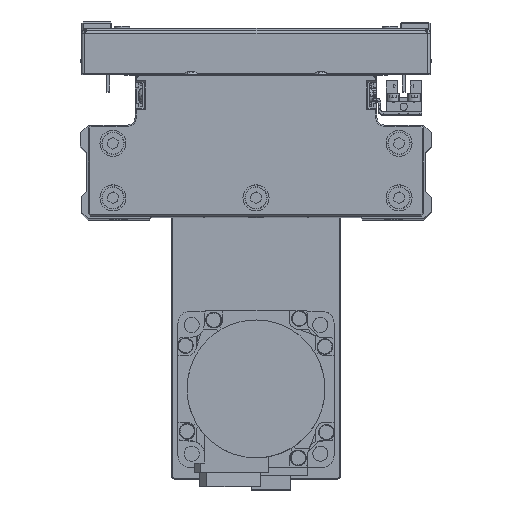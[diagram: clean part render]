
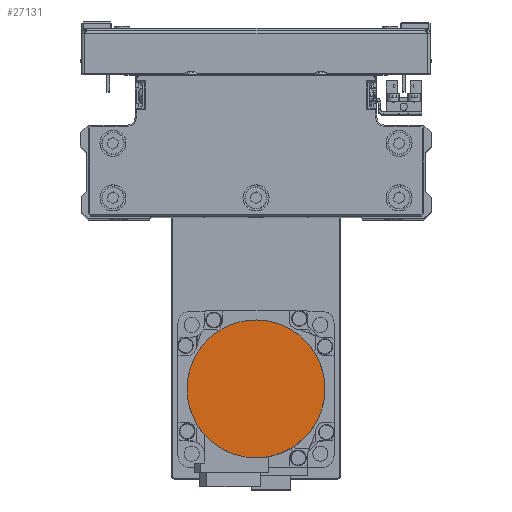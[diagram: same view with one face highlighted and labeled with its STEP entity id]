
A CAD part, top view. The second image highlights one B-rep face of the part: STEP entity #27131.
In plain terms, the highlighted planar face has unit normal (0, 0, 1) as drawn and (0, 0, -1) by its records, which use the part's own axes.
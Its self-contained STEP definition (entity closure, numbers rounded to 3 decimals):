
#1571 = CARTESIAN_POINT ( 'NONE',  ( -21.07, -16.165, -109.7 ) ) ;
#1766 = CARTESIAN_POINT ( 'NONE',  ( 8.539, -25.147, -109.7 ) ) ;
#2009 = CARTESIAN_POINT ( 'NONE',  ( 26.5, 0., -109.7 ) ) ;
#2340 = CARTESIAN_POINT ( 'NONE',  ( 16.165, 21.07, -109.7 ) ) ;
#2548 = CARTESIAN_POINT ( 'NONE',  ( -16.165, 21.07, -109.7 ) ) ;
#2946 = CARTESIAN_POINT ( 'NONE',  ( 26.5, 0., -109.7 ) ) ;
#3999 = VERTEX_POINT ( 'NONE', #16708 ) ;
#4870 = CARTESIAN_POINT ( 'NONE',  ( -25.147, -8.539, -109.7 ) ) ;
#5065 = CARTESIAN_POINT ( 'NONE',  ( 1.734, -26.5, -109.7 ) ) ;
#5264 = CARTESIAN_POINT ( 'NONE',  ( 25.652, -6.871, -109.7 ) ) ;
#5638 = CARTESIAN_POINT ( 'NONE',  ( 21.07, 16.165, -109.7 ) ) ;
#5833 = CARTESIAN_POINT ( 'NONE',  ( -8.539, 25.147, -109.7 ) ) ;
#6015 = EDGE_LOOP ( 'NONE', ( #19728, #33072 ) ) ;
#6042 = CARTESIAN_POINT ( 'NONE',  ( -26.5, 0., -109.7 ) ) ;
#8143 = CARTESIAN_POINT ( 'NONE',  ( -26.5, -1.734, -109.7 ) ) ;
#8378 = CARTESIAN_POINT ( 'NONE',  ( -6.871, -25.652, -109.7 ) ) ;
#8571 = CARTESIAN_POINT ( 'NONE',  ( 22.998, -13.28, -109.7 ) ) ;
#8916 = CARTESIAN_POINT ( 'NONE',  ( 25.147, 8.539, -109.7 ) ) ;
#9144 = CARTESIAN_POINT ( 'NONE',  ( -1.734, 26.5, -109.7 ) ) ;
#9337 = CARTESIAN_POINT ( 'NONE',  ( -25.652, 6.871, -109.7 ) ) ;
#11656 = CARTESIAN_POINT ( 'NONE',  ( -13.28, -22.998, -109.7 ) ) ;
#11900 = CARTESIAN_POINT ( 'NONE',  ( 17.512, -19.965, -109.7 ) ) ;
#12219 = CARTESIAN_POINT ( 'NONE',  ( 26.5, 1.734, -109.7 ) ) ;
#12238 = DIRECTION ( 'NONE',  ( 0., 0., 1. ) ) ;
#12435 = CARTESIAN_POINT ( 'NONE',  ( 6.871, 25.652, -109.7 ) ) ;
#12667 = CARTESIAN_POINT ( 'NONE',  ( -22.998, 13.28, -109.7 ) ) ;
#13405 = EDGE_CURVE ( 'NONE', #3999, #29259, #19463, .T. ) ;
#14964 = CARTESIAN_POINT ( 'NONE',  ( -19.965, -17.512, -109.7 ) ) ;
#15173 = CARTESIAN_POINT ( 'NONE',  ( 11.744, -23.819, -109.7 ) ) ;
#15545 = FACE_OUTER_BOUND ( 'NONE', #6015, .T. ) ;
#15722 = CARTESIAN_POINT ( 'NONE',  ( 13.28, 22.998, -109.7 ) ) ;
#15943 = CARTESIAN_POINT ( 'NONE',  ( -17.512, 19.965, -109.7 ) ) ;
#16708 = CARTESIAN_POINT ( 'NONE',  ( -26.5, 0., -109.7 ) ) ;
#17773 = EDGE_CURVE ( 'NONE', #29259, #3999, #24034, .T. ) ;
#18261 = CARTESIAN_POINT ( 'NONE',  ( -23.819, -11.744, -109.7 ) ) ;
#18455 = CARTESIAN_POINT ( 'NONE',  ( 3.469, -26.329, -109.7 ) ) ;
#18668 = CARTESIAN_POINT ( 'NONE',  ( 26.329, -3.469, -109.7 ) ) ;
#19027 = CARTESIAN_POINT ( 'NONE',  ( 19.965, 17.512, -109.7 ) ) ;
#19216 = CARTESIAN_POINT ( 'NONE',  ( -11.744, 23.819, -109.7 ) ) ;
#19463 = B_SPLINE_CURVE_WITH_KNOTS ( 'NONE', 3,
 ( #38214, #8143, #21531, #34946, #4870, #18261, #31642, #1571, #14964, #28331, #41714, #11656, #25038, #38444, #8378, #21755, #35160, #5065, #18455, #31838, #1766, #15173, #28554, #41956, #11900, #25279, #38663, #8571, #21948, #35356, #5264, #18668, #32071, #2009 ),
 .UNSPECIFIED., .F., .F.,
 ( 4, 2, 2, 2, 2, 2, 2, 2, 2, 2, 2, 2, 2, 2, 2, 2, 4 ),
 ( 0., 0.063, 0.125, 0.188, 0.25, 0.312, 0.375, 0.437, 0.5, 0.562, 0.625, 0.687, 0.75, 0.813, 0.875, 0.938, 1. ),
 .UNSPECIFIED. ) ;
#19728 = ORIENTED_EDGE ( 'NONE', *, *, #17773, .F. ) ;
#21531 = CARTESIAN_POINT ( 'NONE',  ( -26.329, -3.469, -109.7 ) ) ;
#21755 = CARTESIAN_POINT ( 'NONE',  ( -3.469, -26.329, -109.7 ) ) ;
#21948 = CARTESIAN_POINT ( 'NONE',  ( 23.819, -11.744, -109.7 ) ) ;
#22315 = CARTESIAN_POINT ( 'NONE',  ( 23.819, 11.744, -109.7 ) ) ;
#22526 = CARTESIAN_POINT ( 'NONE',  ( -3.469, 26.329, -109.7 ) ) ;
#22724 = CARTESIAN_POINT ( 'NONE',  ( -26.329, 3.469, -109.7 ) ) ;
#24034 = B_SPLINE_CURVE_WITH_KNOTS ( 'NONE', 3,
 ( #42282, #12219, #25591, #38983, #8916, #22315, #35724, #5638, #19027, #32415, #2340, #15722, #29098, #42489, #12435, #25828, #39226, #9144, #22526, #35923, #5833, #19216, #32608, #2548, #15943, #29341, #42728, #12667, #26039, #39422, #9337, #22724, #36120, #6042 ),
 .UNSPECIFIED., .F., .F.,
 ( 4, 2, 2, 2, 2, 2, 2, 2, 2, 2, 2, 2, 2, 2, 2, 2, 4 ),
 ( 0., 0.062, 0.125, 0.187, 0.25, 0.312, 0.375, 0.437, 0.5, 0.562, 0.625, 0.687, 0.75, 0.813, 0.875, 0.938, 1. ),
 .UNSPECIFIED. ) ;
#25038 = CARTESIAN_POINT ( 'NONE',  ( -11.744, -23.819, -109.7 ) ) ;
#25279 = CARTESIAN_POINT ( 'NONE',  ( 19.965, -17.512, -109.7 ) ) ;
#25591 = CARTESIAN_POINT ( 'NONE',  ( 26.329, 3.469, -109.7 ) ) ;
#25613 = DIRECTION ( 'NONE',  ( 1., 0., 0. ) ) ;
#25828 = CARTESIAN_POINT ( 'NONE',  ( 3.469, 26.329, -109.7 ) ) ;
#26039 = CARTESIAN_POINT ( 'NONE',  ( -23.819, 11.744, -109.7 ) ) ;
#27131 = ADVANCED_FACE ( 'NONE', ( #15545 ), #28919, .F. ) ;
#28331 = CARTESIAN_POINT ( 'NONE',  ( -17.512, -19.965, -109.7 ) ) ;
#28554 = CARTESIAN_POINT ( 'NONE',  ( 13.28, -22.998, -109.7 ) ) ;
#28919 = PLANE ( 'NONE',  #39676 ) ;
#29098 = CARTESIAN_POINT ( 'NONE',  ( 11.744, 23.819, -109.7 ) ) ;
#29259 = VERTEX_POINT ( 'NONE', #2946 ) ;
#29341 = CARTESIAN_POINT ( 'NONE',  ( -19.965, 17.512, -109.7 ) ) ;
#31642 = CARTESIAN_POINT ( 'NONE',  ( -22.998, -13.28, -109.7 ) ) ;
#31838 = CARTESIAN_POINT ( 'NONE',  ( 6.871, -25.652, -109.7 ) ) ;
#32071 = CARTESIAN_POINT ( 'NONE',  ( 26.5, -1.734, -109.7 ) ) ;
#32415 = CARTESIAN_POINT ( 'NONE',  ( 17.512, 19.965, -109.7 ) ) ;
#32608 = CARTESIAN_POINT ( 'NONE',  ( -13.28, 22.998, -109.7 ) ) ;
#33072 = ORIENTED_EDGE ( 'NONE', *, *, #13405, .F. ) ;
#34946 = CARTESIAN_POINT ( 'NONE',  ( -25.652, -6.871, -109.7 ) ) ;
#35160 = CARTESIAN_POINT ( 'NONE',  ( -1.734, -26.5, -109.7 ) ) ;
#35356 = CARTESIAN_POINT ( 'NONE',  ( 25.147, -8.539, -109.7 ) ) ;
#35724 = CARTESIAN_POINT ( 'NONE',  ( 22.998, 13.28, -109.7 ) ) ;
#35923 = CARTESIAN_POINT ( 'NONE',  ( -6.871, 25.652, -109.7 ) ) ;
#36120 = CARTESIAN_POINT ( 'NONE',  ( -26.5, 1.734, -109.7 ) ) ;
#38214 = CARTESIAN_POINT ( 'NONE',  ( -26.5, 0., -109.7 ) ) ;
#38444 = CARTESIAN_POINT ( 'NONE',  ( -8.539, -25.147, -109.7 ) ) ;
#38663 = CARTESIAN_POINT ( 'NONE',  ( 21.07, -16.165, -109.7 ) ) ;
#38983 = CARTESIAN_POINT ( 'NONE',  ( 25.652, 6.871, -109.7 ) ) ;
#39226 = CARTESIAN_POINT ( 'NONE',  ( 1.734, 26.5, -109.7 ) ) ;
#39422 = CARTESIAN_POINT ( 'NONE',  ( -25.147, 8.539, -109.7 ) ) ;
#39676 = AXIS2_PLACEMENT_3D ( 'NONE', #42302, #12238, #25613 ) ;
#41714 = CARTESIAN_POINT ( 'NONE',  ( -16.165, -21.07, -109.7 ) ) ;
#41956 = CARTESIAN_POINT ( 'NONE',  ( 16.165, -21.07, -109.7 ) ) ;
#42282 = CARTESIAN_POINT ( 'NONE',  ( 26.5, 0., -109.7 ) ) ;
#42302 = CARTESIAN_POINT ( 'NONE',  ( 0., 0., -109.7 ) ) ;
#42489 = CARTESIAN_POINT ( 'NONE',  ( 8.539, 25.147, -109.7 ) ) ;
#42728 = CARTESIAN_POINT ( 'NONE',  ( -21.07, 16.165, -109.7 ) ) ;
